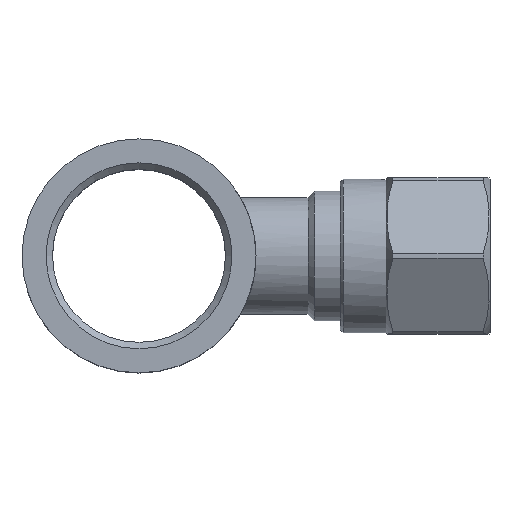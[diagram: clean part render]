
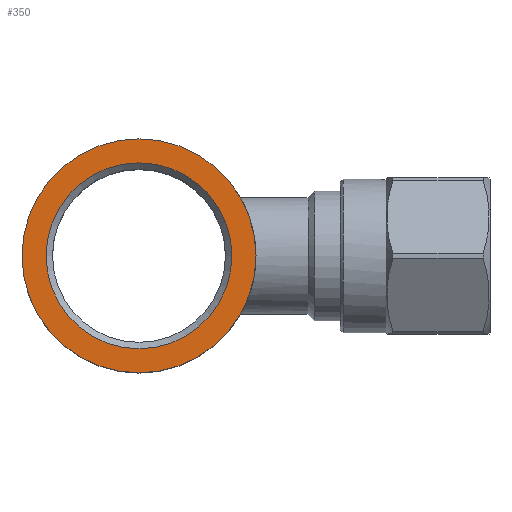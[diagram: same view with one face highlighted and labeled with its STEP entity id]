
A CAD part, top view. The second image highlights one B-rep face of the part: STEP entity #350.
In plain terms, the highlighted planar face has unit normal (0, 0, 1).
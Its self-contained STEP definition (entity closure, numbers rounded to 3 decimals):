
#350=ADVANCED_FACE('', (#360,#370), #380, .T.);
#2540=AXIS2_PLACEMENT_3D('Ax2Pl3d', #2550, #2560, #2570);
#2580=AXIS2_PLACEMENT_3D('Ax2Pl3d', #2590, #2600, #2610);
#2620=AXIS2_PLACEMENT_3D('Ax2Pl3d', #2630, #2640, #2650);
#2550=CARTESIAN_POINT('HicPkt', (21.461,16.868,
20.648));
#2590=CARTESIAN_POINT('HicPkt', (12.461,16.868,
20.648));
#19990=CARTESIAN_POINT('', (12.461,25.868,20.648));
#2630=CARTESIAN_POINT('HicPkt', (12.461,16.868,
20.648));
#20000=CARTESIAN_POINT('', (12.461,24.018,20.648));
#20710=CIRCLE('Circle', #2580, 9.);
#20720=CIRCLE('Circle', #2620, 7.15);
#2560=DIRECTION('Axis', (0.,0.,1.));
#2570=DIRECTION('RefDirection', (1.,0.,-0.));
#2600=DIRECTION('Axis', (0.,0.,1.));
#2610=DIRECTION('RefDirection', (1.,0.,-0.));
#2640=DIRECTION('Axis', (0.,0.,-1.));
#2650=DIRECTION('RefDirection', (-1.,-0.,0.));
#23770=EDGE_CURVE('', #23780, #23780, #20710, .T.);
#23790=EDGE_CURVE('', #23800, #23800, #20720, .T.);
#25300=EDGE_LOOP('Edge_loop', (#25310));
#25320=EDGE_LOOP('Edge_loop', (#25330));
#370=FACE_BOUND('', #25320, .T.);
#360=FACE_OUTER_BOUND('Face_outer_bound', #25300, .T.);
#25310=ORIENTED_EDGE('', *, *, #23770, .T.);
#25330=ORIENTED_EDGE('', *, *, #23790, .T.);
#380=PLANE('Plane', #2540);
#23780=VERTEX_POINT('', #19990);
#23800=VERTEX_POINT('', #20000);
